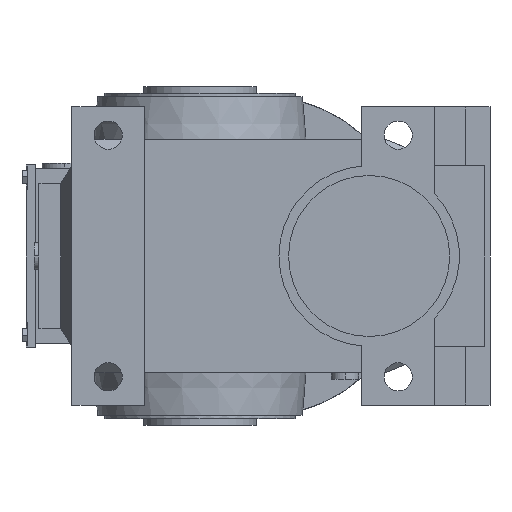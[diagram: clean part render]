
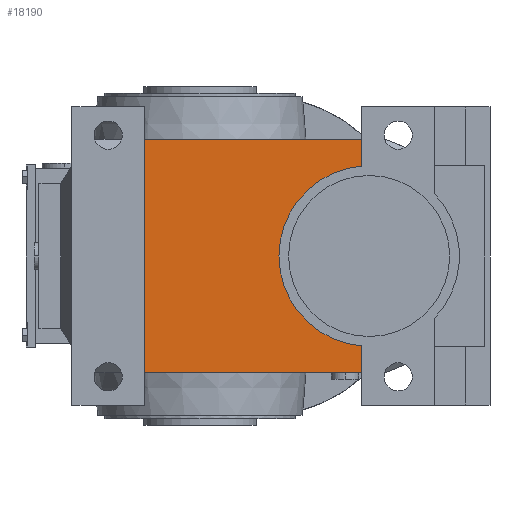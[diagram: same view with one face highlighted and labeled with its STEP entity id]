
A CAD part, left-side view. The second image highlights one B-rep face of the part: STEP entity #18190.
In plain terms, the highlighted planar face has unit normal (-1, 0, 0).
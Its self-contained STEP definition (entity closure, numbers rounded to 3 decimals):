
#2190=CARTESIAN_POINT('',(-76.5,70.5,35.5));
#2200=VERTEX_POINT('',#2190);
#2230=CARTESIAN_POINT('',(-76.5,70.5,0.));
#2240=DIRECTION('',(0.,0.,-1.));
#2250=VECTOR('',#2240,1.);
#2260=LINE('',#2230,#2250);
#2270=CARTESIAN_POINT('',(-76.5,70.5,-109.5));
#2280=VERTEX_POINT('',#2270);
#2290=EDGE_CURVE('',#2200,#2280,#2260,.T.);
#10430=CARTESIAN_POINT('',(-76.5,0.,-109.5));
#10440=DIRECTION('',(0.,1.,0.));
#10450=VECTOR('',#10440,1.);
#10460=LINE('',#10430,#10450);
#10470=CARTESIAN_POINT('',(-76.5,-64.5,-109.5));
#10480=VERTEX_POINT('',#10470);
#10490=EDGE_CURVE('',#10480,#2280,#10460,.T.);
#14290=CARTESIAN_POINT('',(-76.5,-64.5,0.));
#14300=DIRECTION('',(0.,0.,1.));
#14310=VECTOR('',#14300,1.);
#14320=LINE('',#14290,#14310);
#14330=CARTESIAN_POINT('',(-76.5,-64.5,-92.819));
#14340=VERTEX_POINT('',#14330);
#14350=EDGE_CURVE('',#10480,#14340,#14320,.T.);
#17860=CARTESIAN_POINT('',(-76.5,-1.073,3.484));
#17870=DIRECTION('',(-1.,0.,0.));
#17880=DIRECTION('',(0.,-1.,0.));
#17890=AXIS2_PLACEMENT_3D('',#17860,#17870,#17880);
#17900=PLANE('',#17890);
#17910=CARTESIAN_POINT('',(-76.5,0.,35.5));
#17920=DIRECTION('',(0.,1.,0.));
#17930=VECTOR('',#17920,1.);
#17940=LINE('',#17910,#17930);
#17950=CARTESIAN_POINT('',(-76.5,-64.5,35.5));
#17960=VERTEX_POINT('',#17950);
#17970=EDGE_CURVE('',#17960,#2200,#17940,.T.);
#17980=ORIENTED_EDGE('',*,*,#17970,.T.);
#17990=CARTESIAN_POINT('',(-76.5,-64.5,0.));
#18000=DIRECTION('',(0.,0.,-1.));
#18010=VECTOR('',#18000,1.);
#18020=LINE('',#17990,#18010);
#18030=CARTESIAN_POINT('',(-76.5,-64.5,18.819));
#18040=VERTEX_POINT('',#18030);
#18050=EDGE_CURVE('',#17960,#18040,#18020,.T.);
#18060=ORIENTED_EDGE('',*,*,#18050,.F.);
#18070=CARTESIAN_POINT('',(-76.5,-69.,-37.));
#18080=DIRECTION('',(-1.,0.,0.));
#18090=DIRECTION('',(0.,-1.,0.));
#18100=AXIS2_PLACEMENT_3D('',#18070,#18080,#18090);
#18110=CIRCLE('',#18100,56.);
#18120=EDGE_CURVE('',#18040,#14340,#18110,.T.);
#18130=ORIENTED_EDGE('',*,*,#18120,.F.);
#18140=ORIENTED_EDGE('',*,*,#14350,.T.);
#18150=ORIENTED_EDGE('',*,*,#10490,.F.);
#18160=ORIENTED_EDGE('',*,*,#2290,.T.);
#18170=EDGE_LOOP('',(#18160,#18150,#18140,#18130,#18060,#17980));
#18180=FACE_OUTER_BOUND('',#18170,.T.);
#18190=ADVANCED_FACE('',(#18180),#17900,.T.);
